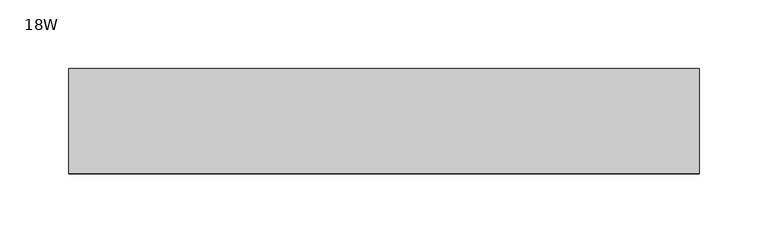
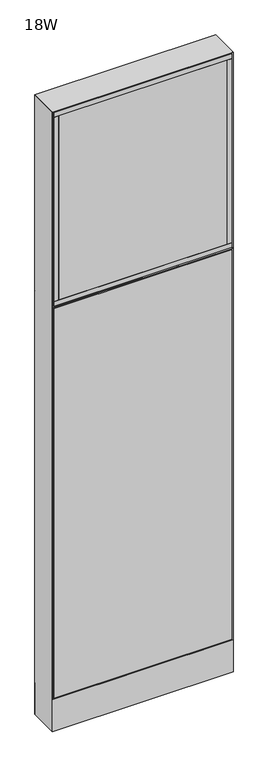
"""IFC4 building model written with IfcOpenShell, lengths in millimetres: furniture geometry, Steelcase - Montage - Frame - 65H - Enhanced Standard - Base Cavity : 18W."""

import ifcopenshell
import ifcopenshell.guid

model = None  # the IFC model being written
_history = None  # IfcOwnerHistory: only IFC2X3 demands one
_inside = {}  # id of a spatial element -> (the spatial element, [elements in it])
_under = {}  # id of a project, library or spatial element -> (it, [spatial elements below it])
_declared = {}  # id of a project -> (the project, [libraries it declares])
_typed = {}  # id of a type object -> (the type object, [elements of that type])
_made_of = {}  # id of a material, layer set ... -> (it, [elements and type objects made of it])


def new_model(schema):
    """Start an empty IFC model of exactly this schema.

    Asked for "IFC4X3", IfcOpenShell would pick the latest addendum, in which some entities
    have other attributes; the version numbers below select the first issue.
    IFC2X3 requires an IfcOwnerHistory on every rooted entity: one is made here for all.
    """
    global model, _history
    if schema == "IFC4X3":
        model = ifcopenshell.file(schema_version=(4, 3, 0, 0))
    else:
        model = ifcopenshell.file(schema=schema)
    _inside.clear()
    _under.clear()
    _declared.clear()
    _typed.clear()
    _made_of.clear()
    _history = None
    if model.schema == "IFC2X3":
        org = make("IfcOrganization", Name="unknown")
        user = make(
            "IfcPersonAndOrganization",
            ThePerson=make("IfcPerson", FamilyName="unknown"),
            TheOrganization=org,
        )
        app = make(
            "IfcApplication",
            ApplicationDeveloper=org,
            Version="unknown",
            ApplicationFullName="unknown",
            ApplicationIdentifier="unknown",
        )
        _history = make(
            "IfcOwnerHistory",
            OwningUser=user,
            OwningApplication=app,
            ChangeAction="ADDED",
            CreationDate=0,
        )
    return model


def make(cls, **values):
    """One entity of the class cls with the attributes given. An attribute that is None is left unset."""
    return model.create_entity(
        cls, **{name: value for name, value in values.items() if value is not None}
    )


def rooted(cls, **values):
    """An entity with a GlobalId (a new one), such as an element, a storey or a relation."""
    return make(cls, GlobalId=ifcopenshell.guid.new(), OwnerHistory=_history, **values)


def si_unit(unit_type, name, prefix=None):
    """IfcSIUnit, for example si_unit("LENGTHUNIT", "METRE", prefix="MILLI")."""
    return make("IfcSIUnit", UnitType=unit_type, Prefix=prefix, Name=name)


def assignment(units):
    """IfcUnitAssignment: the units of a project."""
    return None if units is None else make("IfcUnitAssignment", Units=units)


def point(xyz):
    """IfcCartesianPoint."""
    return None if xyz is None else make("IfcCartesianPoint", Coordinates=xyz)


def direction(xyz):
    """IfcDirection."""
    return None if xyz is None else make("IfcDirection", DirectionRatios=xyz)


def frame(location, z_axis=None, x_axis=None):
    """IfcAxis2Placement3D, a coordinate frame: its origin and axes. An axis left out is left unset."""
    return make(
        "IfcAxis2Placement3D",
        Location=point(location),
        Axis=direction(z_axis),
        RefDirection=direction(x_axis),
    )


def frame_2d(location, x_axis=None):
    """IfcAxis2Placement2D, a coordinate frame in the plane: its origin and x axis."""
    return make(
        "IfcAxis2Placement2D", Location=point(location), RefDirection=direction(x_axis)
    )


def origin():
    """The frame at (0, 0, 0) with its axes left unset."""
    return frame((0.0, 0.0, 0.0))


def origin_with_axes():
    """The frame at (0, 0, 0) with the z axis (0, 0, 1) and the x axis (1, 0, 0) written out."""
    return frame((0.0, 0.0, 0.0), z_axis=(0.0, 0.0, 1.0), x_axis=(1.0, 0.0, 0.0))


def place(relative_to, where):
    """IfcLocalPlacement: puts the frame where relative to a parent placement (None: the world)."""
    return make(
        "IfcLocalPlacement", PlacementRelTo=relative_to, RelativePlacement=where
    )


def context(
    kind, dimensions, precision=None, world=None, true_north=None, identifier=None
):
    """IfcGeometricRepresentationContext, for example the 3D "Model" context."""
    return make(
        "IfcGeometricRepresentationContext",
        ContextIdentifier=identifier,
        ContextType=kind,
        CoordinateSpaceDimension=dimensions,
        Precision=precision,
        WorldCoordinateSystem=world,
        TrueNorth=true_north,
    )


def project(units=None, contexts=None):
    """IfcProject with its units and contexts."""
    return rooted(
        "IfcProject",
        Name="project",
        RepresentationContexts=contexts,
        UnitsInContext=assignment(units),
    )


def spatial(cls, under=None, at=None, **own):
    """A site, building, storey or space (cls), placed at a placement, below another one or the project."""
    s = rooted(cls, ObjectPlacement=at, **own)
    if under is not None:
        _under.setdefault(under.id(), (under, []))[1].append(s)
    return s


def polyline(points):
    """IfcPolyline through the points."""
    return make("IfcPolyline", Points=[point(p) for p in points])


def circle_curve(where, radius):
    """IfcCircle in the frame where."""
    return make("IfcCircle", Position=where, Radius=radius)


def trimmed(basis, trim1, trim2, sense, master):
    """IfcTrimmedCurve: the piece of a basis curve between two trims."""
    return make(
        "IfcTrimmedCurve",
        BasisCurve=basis,
        Trim1=trim1,
        Trim2=trim2,
        SenseAgreement=sense,
        MasterRepresentation=master,
    )


def segment(curve, same_sense, transition):
    """IfcCompositeCurveSegment."""
    return make(
        "IfcCompositeCurveSegment",
        Transition=transition,
        SameSense=same_sense,
        ParentCurve=curve,
    )


def composite_curve(segments, self_intersect=None):
    """IfcCompositeCurve: segments joined end to end."""
    return make("IfcCompositeCurve", Segments=segments, SelfIntersect=self_intersect)


def outline(outer, holes=None, kind="AREA"):
    """IfcArbitraryClosedProfileDef: a profile drawn as a closed curve; with holes, ...WithVoids."""
    if holes is None:
        return make("IfcArbitraryClosedProfileDef", ProfileType=kind, OuterCurve=outer)
    return make(
        "IfcArbitraryProfileDefWithVoids",
        ProfileType=kind,
        OuterCurve=outer,
        InnerCurves=holes,
    )


def extrude(swept, where, along, depth):
    """IfcExtrudedAreaSolid: the profile swept, set in the frame where, extruded along a direction by depth."""
    return make(
        "IfcExtrudedAreaSolid",
        SweptArea=swept,
        Position=where,
        ExtrudedDirection=direction(along),
        Depth=depth,
    )


def faces_of(points, faces, orient=None, outer=None):
    """IfcFace entities. A face is a list of loops; a loop is a list of indices into points, from 0.

    orient and outer hold one flag for each loop. By default every Orientation is true, the
    first loop of a face is its IfcFaceOuterBound and the others are IfcFaceBound.
    """
    made = []
    for i, loops in enumerate(faces):
        bounds = []
        for j, loop in enumerate(loops):
            is_outer = j == 0 if outer is None else outer[i][j]
            bounds.append(
                make(
                    "IfcFaceOuterBound" if is_outer else "IfcFaceBound",
                    Bound=make("IfcPolyLoop", Polygon=[points[k] for k in loop]),
                    Orientation=True if orient is None else orient[i][j],
                )
            )
        made.append(make("IfcFace", Bounds=bounds))
    return made


def faceted_brep(points, faces, orient=None, outer=None, voids=None):
    """IfcFacetedBrep: a solid bounded by flat faces; with voids (closed shells), ...WithVoids."""
    shared = [point(p) for p in points]
    hull = make("IfcClosedShell", CfsFaces=faces_of(shared, faces, orient, outer))
    if voids is None:
        return make("IfcFacetedBrep", Outer=hull)
    return make(
        "IfcFacetedBrepWithVoids",
        Outer=hull,
        Voids=[
            make(cls, CfsFaces=faces_of(shared, fs, o, b)) for cls, fs, o, b in voids
        ],
    )


def shape(context_of_items, identifier, shape_type, items):
    """IfcShapeRepresentation: the items that make up one representation, for example the "Body"."""
    return make(
        "IfcShapeRepresentation",
        ContextOfItems=context_of_items,
        RepresentationIdentifier=identifier,
        RepresentationType=shape_type,
        Items=items,
    )


def source(mapping_origin, context_of_items, identifier, shape_type, items):
    """IfcRepresentationMap: a shape defined once, which mapped items show again and again."""
    return make(
        "IfcRepresentationMap",
        MappingOrigin=mapping_origin,
        MappedRepresentation=shape(context_of_items, identifier, shape_type, items),
    )


def transform(
    local_origin,
    x_axis=None,
    y_axis=None,
    z_axis=None,
    scale=None,
    scale2=None,
    scale3=None,
    uniform=True,
):
    """IfcCartesianTransformationOperator3D, or its non-uniform kind. x_axis, y_axis, z_axis: its Axis1, 2, 3."""
    if uniform:
        return make(
            "IfcCartesianTransformationOperator3D",
            Axis1=direction(x_axis),
            Axis2=direction(y_axis),
            LocalOrigin=point(local_origin),
            Scale=scale,
            Axis3=direction(z_axis),
        )
    return make(
        "IfcCartesianTransformationOperator3DnonUniform",
        Axis1=direction(x_axis),
        Axis2=direction(y_axis),
        LocalOrigin=point(local_origin),
        Scale=scale,
        Axis3=direction(z_axis),
        Scale2=scale2,
        Scale3=scale3,
    )


def mapped(mapping_source, mapping_target):
    """IfcMappedItem: shows the shape of a source again, moved by a transform."""
    return make(
        "IfcMappedItem", MappingSource=mapping_source, MappingTarget=mapping_target
    )


def made_of(thing, what):
    """Note that an element or type object is made of a material, layer set ...; save() writes the relation."""
    if what is not None:
        _made_of.setdefault(what.id(), (what, []))[1].append(thing)
    return thing


def element(
    cls,
    number,
    at=None,
    inside=None,
    cuts=None,
    type_object=None,
    material=None,
    context=None,
    identifier="Body",
    shape_type=None,
    held_by="IfcProductDefinitionShape",
    body=None,
    shapes=None,
    **own,
):
    """One element of the class cls, such as IfcWall. Its Tag is "e" and its number.

    at: its placement. inside: the storey or other place that contains it. cuts: it is an
    opening in that element (IfcRelVoidsElement). A single representation is given by context,
    identifier, shape_type and body (its items); several are given by shapes. held_by: the class
    of the entity that holds the representations. save() writes the other relations.
    """
    e = rooted(cls, Tag="e%d" % number, ObjectPlacement=at, **own)
    if body is not None:
        shapes = [shape(context, identifier, shape_type, body)]
    if shapes is not None:
        e.Representation = make(held_by, Representations=shapes)
    if inside is not None:
        _inside.setdefault(inside.id(), (inside, []))[1].append(e)
    if cuts is not None:
        rooted(
            "IfcRelVoidsElement", RelatingBuildingElement=cuts, RelatedOpeningElement=e
        )
    if type_object is not None:
        _typed.setdefault(type_object.id(), (type_object, []))[1].append(e)
    return made_of(e, material)


def aggregate(whole, parts):
    """IfcRelAggregates: a whole, such as a stair, and the parts it consists of."""
    return rooted("IfcRelAggregates", RelatingObject=whole, RelatedObjects=parts)


def save(model, path):
    """Write the relations noted so far, then the file.

    IfcRelAggregates (storeys below a building ...), IfcRelContainedInSpatialStructure (elements
    in a storey), IfcRelDefinesByType, IfcRelAssociatesMaterial and IfcRelDeclares: one each for
    every whole, place, type object, material and project.
    """
    for whole, parts in _under.values():
        aggregate(whole, parts)
    for where, things in _inside.values():
        rooted(
            "IfcRelContainedInSpatialStructure",
            RelatedElements=things,
            RelatingStructure=where,
        )
    for kind, things in _typed.values():
        rooted("IfcRelDefinesByType", RelatedObjects=things, RelatingType=kind)
    for what, things in _made_of.values():
        rooted("IfcRelAssociatesMaterial", RelatedObjects=things, RelatingMaterial=what)
    for by, libraries in _declared.values():
        rooted("IfcRelDeclares", RelatingContext=by, RelatedDefinitions=libraries)
    model.write(path)


def furniture_18w_032aefa3(model_context):
    return source(origin(), model_context, "Body", "SolidModel", [
        faceted_brep([(-5.4e-06, 38.102627, 1136.6500027), (6.3499917, 31.7526299, 1142.9999997), (450.8500047, 31.7526299, 1142.9999997), (457.2, 38.1026253, 1136.6500044), (450.8500047, 31.7526299, 1130.3000003), (6.3499917, 31.7526299, 1130.3000003)], [[[0, 1, 2, 3]], [[3, 4, 5, 0]], [[1, 5, 4, 2]], [[0, 5, 1]], [[2, 4, 3]]]),
        extrude(outline(polyline([(441.325, 38.1000015), (441.325, 31.7500017), (15.875, 31.7500017), (15.875, 38.1000015), (441.325, 38.1000015)])), frame((0.0, 0.0, 1152.525), z_axis=(0.0, 0.0, 1.0), x_axis=(1.0, 0.0, 0.0)), (0.0, 0.0, 1.0), 492.125),
        extrude(outline(polyline([(441.325, -31.7499985), (441.325, -38.1000015), (15.875, -38.1000015), (15.875, -31.7499985), (441.325, -31.7499985)])), frame((0.0, 0.0, 1152.525), z_axis=(0.0, 0.0, 1.0), x_axis=(1.0, 0.0, 0.0)), (0.0, 0.0, 1.0), 492.125),
        extrude(outline(polyline([(454.025, -38.1000015), (441.325, -38.1000015), (441.325, 38.1000015), (454.025, 38.1000015), (454.025, -38.1000015)])), frame((0.0, 0.0, 1152.525), z_axis=(0.0, 0.0, 1.0), x_axis=(1.0, 0.0, 0.0)), (0.0, 0.0, 1.0), 492.125),
        extrude(outline(polyline([(15.875, -38.1000015), (3.175, -38.1000015), (3.175, 38.1000015), (15.875, 38.1000015), (15.875, -38.1000015)])), frame((0.0, 0.0, 1152.525), z_axis=(0.0, 0.0, 1.0), x_axis=(1.0, 0.0, 0.0)), (0.0, 0.0, 1.0), 492.125),
        extrude(outline(polyline([(454.025, -38.1000015), (3.175, -38.1000015), (3.175, 38.1000015), (454.025, 38.1000015), (454.025, -38.1000015)])), frame((0.0, 0.0, 1139.825), z_axis=(0.0, 0.0, 1.0), x_axis=(1.0, 0.0, 0.0)), (0.0, 0.0, 1.0), 12.7),
        extrude(outline(polyline([(454.025, -38.1000015), (3.175, -38.1000015), (3.175, 38.1000015), (454.025, 38.1000015), (454.025, -38.1000015)])), frame((0.0, 0.0, 1644.65), z_axis=(0.0, 0.0, 1.0), x_axis=(1.0, 0.0, 0.0)), (0.0, 0.0, 1.0), 12.7),
        extrude(outline(polyline([(3.175, 31.7500194), (3.175, 38.1000194), (454.025, 38.1000194), (454.025, 31.7500194), (3.175, 31.7500194)])), frame((0.0, 0.0, 92.075), z_axis=(0.0, 0.0, 1.0), x_axis=(1.0, 0.0, 0.0)), (0.0, 0.0, 1.0), 1041.4),
        faceted_brep([(0.0, -38.1026297, 1136.65), (457.2, -38.1026297, 1136.65), (450.8500047, -31.7526299, 1142.9999997), (6.3499917, -31.7526299, 1142.9999997), (6.3499917, -31.7526299, 1130.3000003), (450.8500047, -31.7526299, 1130.3000003)], [[[0, 1, 2, 3]], [[1, 0, 4, 5]], [[3, 2, 5, 4]], [[0, 3, 4]], [[2, 1, 5]]]),
        extrude(outline(polyline([(441.325, -38.1000015), (15.875, -38.1000015), (15.875, -31.7500017), (441.325, -31.7500017), (441.325, -38.1000015)])), frame((0.0, 0.0, 1152.525), z_axis=(0.0, 0.0, 1.0), x_axis=(1.0, 0.0, 0.0)), (0.0, 0.0, 1.0), 492.125),
        extrude(outline(polyline([(441.325, 31.7499985), (15.875, 31.7499985), (15.875, 38.1000015), (441.325, 38.1000015), (441.325, 31.7499985)])), frame((0.0, 0.0, 1152.525), z_axis=(0.0, 0.0, 1.0), x_axis=(1.0, 0.0, 0.0)), (0.0, 0.0, 1.0), 492.125),
        extrude(outline(polyline([(454.025, 38.1000015), (454.025, -38.1000015), (441.325, -38.1000015), (441.325, 38.1000015), (454.025, 38.1000015)])), frame((0.0, 0.0, 1152.525), z_axis=(0.0, 0.0, 1.0), x_axis=(1.0, 0.0, 0.0)), (0.0, 0.0, 1.0), 492.125),
        extrude(outline(polyline([(15.875, 38.1000015), (15.875, -38.1000015), (3.175, -38.1000015), (3.175, 38.1000015), (15.875, 38.1000015)])), frame((0.0, 0.0, 1152.525), z_axis=(0.0, 0.0, 1.0), x_axis=(1.0, 0.0, 0.0)), (0.0, 0.0, 1.0), 492.125),
        extrude(outline(polyline([(454.025, 38.1000015), (454.025, -38.1000015), (3.175, -38.1000015), (3.175, 38.1000015), (454.025, 38.1000015)])), frame((0.0, 0.0, 1139.825), z_axis=(0.0, 0.0, 1.0), x_axis=(1.0, 0.0, 0.0)), (0.0, 0.0, 1.0), 12.7),
        extrude(outline(polyline([(454.025, 38.1000015), (454.025, -38.1000015), (3.175, -38.1000015), (3.175, 38.1000015), (454.025, 38.1000015)])), frame((0.0, 0.0, 1644.65), z_axis=(0.0, 0.0, 1.0), x_axis=(1.0, 0.0, 0.0)), (0.0, 0.0, 1.0), 12.7),
        extrude(outline(polyline([(3.175, -31.7500194), (454.025, -31.7500194), (454.025, -38.1000194), (3.175, -38.1000194), (3.175, -31.7500194)])), frame((0.0, 0.0, 92.075), z_axis=(0.0, 0.0, 1.0), x_axis=(1.0, 0.0, 0.0)), (0.0, 0.0, 1.0), 1041.4),
        extrude(outline(polyline([(6.350003, -31.7499985), (450.849997, -31.7499985), (457.2, -38.1000015), (0.0, -38.1000015), (6.350003, -31.7499985)])), frame((0.0, 0.0, 4.064), z_axis=(0.0, 0.0, 1.0), x_axis=(1.0, 0.0, 0.0)), (0.0, 0.0, 1.0), 84.835997),
        extrude(outline(polyline([(6.3500002, 31.7500017), (0.0, 38.1000015), (457.2, 38.1000015), (450.8500002, 31.7500017), (6.3500002, 31.7500017)])), frame((0.0, 0.0, 4.064), z_axis=(0.0, 0.0, 1.0), x_axis=(1.0, 0.0, 0.0)), (0.0, 0.0, 1.0), 84.835997),
        faceted_brep([(457.2, -38.1000015, 1660.525), (0.0, -38.1000015, 1660.525), (6.3500484, -31.749953, 1654.1749516), (450.8499516, -31.749953, 1654.1749516), (6.3500484, 31.749953, 1654.1749516), (450.8499516, 31.749953, 1654.1749516), (0.0, 38.1000015, 1660.525), (457.2, 38.1000015, 1660.525)], [[[0, 1, 2, 3]], [[3, 2, 4, 5]], [[6, 7, 5, 4]], [[1, 0, 7, 6]], [[2, 1, 6, 4]], [[0, 3, 5, 7]]]),
        extrude(outline(composite_curve([segment(trimmed(circle_curve(frame_2d((44.45, 0.0)), 15.24), [point((29.21, 0.0))], [point((59.69, 0.0))], False, "CARTESIAN"), True, "CONTINUOUS"), segment(trimmed(circle_curve(frame_2d((44.45, 0.0)), 15.24), [point((59.69, 0.0))], [point((29.21, 0.0))], False, "CARTESIAN"), True, "CONTINUOUS")], self_intersect=False)), origin_with_axes(), (0.0, 0.0, 1.0), 4.064),
        extrude(outline(composite_curve([segment(trimmed(circle_curve(frame_2d((412.75, 0.0)), 15.24), [point((397.51, 0.0))], [point((427.99, 0.0))], False, "CARTESIAN"), True, "CONTINUOUS"), segment(trimmed(circle_curve(frame_2d((412.75, 0.0)), 15.24), [point((427.99, 0.0))], [point((397.51, 0.0))], False, "CARTESIAN"), True, "CONTINUOUS")], self_intersect=False)), origin_with_axes(), (0.0, 0.0, 1.0), 4.064),
        faceted_brep([(457.2, -38.1000106, 4.064), (457.2, 38.1000015, 4.064), (457.2, 38.1000015, 1660.525), (457.2, -38.1000106, 1660.5249637), (0.0, 38.1000015, 4.064), (0.0, -38.1000015, 4.064), (0.0, -38.1000015, 1660.525), (0.0, 38.1000015, 1660.525), (450.8499879, 31.7500017, 606.425), (6.35, 31.7500017, 606.425), (6.3499998, 31.7500017, 619.125), (450.8499879, 31.7500017, 619.125), (6.35, -31.7499985, 619.125), (450.8499879, -31.7499985, 619.125), (6.350003, -31.7499985, 606.425), (450.8499879, -31.7499985, 606.425), (450.8499879, 31.7500017, 1130.3), (6.35, 31.7500017, 1130.3), (6.3499998, 31.7500017, 1143.0), (450.8499879, 31.7500017, 1143.0), (6.35, -31.7499985, 1143.0), (450.8499879, -31.7499985, 1143.0), (6.350003, -31.7499985, 1130.3), (450.8499879, -31.7499985, 1130.3), (6.35, 31.7500015, 4.064), (6.35, -31.7500015, 4.064), (450.8499879, 31.7499894, 4.064), (450.8499879, -31.7499985, 4.064), (6.35, 31.7500015, 1654.175), (6.35, -31.7500015, 1654.175), (450.8499879, -31.7499985, 1654.1749516), (450.8499879, 31.7499895, 1654.1749516)], [[[0, 1, 2, 3]], [[4, 5, 6, 7]], [[8, 9, 10, 11]], [[11, 10, 12, 13]], [[13, 12, 14, 15]], [[9, 8, 15, 14]], [[16, 17, 18, 19]], [[19, 18, 20, 21]], [[21, 20, 22, 23]], [[17, 16, 23, 22]], [[24, 25, 5, 4]], [[26, 1, 0, 27]], [[24, 4, 7, 28, 18, 17, 10, 9]], [[5, 25, 14, 12, 22, 20, 29, 6]], [[20, 18, 28, 29]], [[25, 24, 9, 14]], [[10, 17, 22, 12]], [[19, 21, 30, 31]], [[26, 27, 15, 8]], [[16, 11, 13, 23]], [[27, 0, 3, 30, 21, 23, 13, 15]], [[1, 26, 8, 11, 16, 19, 31, 2]], [[7, 6, 29, 28]], [[3, 2, 31, 30]]]),
    ])


if __name__ == "__main__":
    model = new_model("IFC4")
    model_context = context("Model", 3, world=origin())
    ifc_project = project(units=[si_unit("LENGTHUNIT", "METRE", prefix="MILLI")], contexts=[model_context])
    site = spatial("IfcSite", under=ifc_project)
    building = spatial("IfcBuilding", under=site)
    placement = place(None, origin())
    furniture_18w_shape = furniture_18w_032aefa3(model_context)
    element("IfcFurniture", 1, ObjectType="Steelcase - Montage - Frame - 65H - Enhanced Standard - Base Cavity : 18W", at=placement, inside=building, context=model_context, shape_type="MappedRepresentation", body=[
        mapped(furniture_18w_shape, transform((0.0, 0.0, 0.0), x_axis=(1.0, 0.0, 0.0), y_axis=(0.0, 1.0, 0.0), z_axis=(0.0, 0.0, 1.0))),
    ])
    save(model, "model.ifc")
